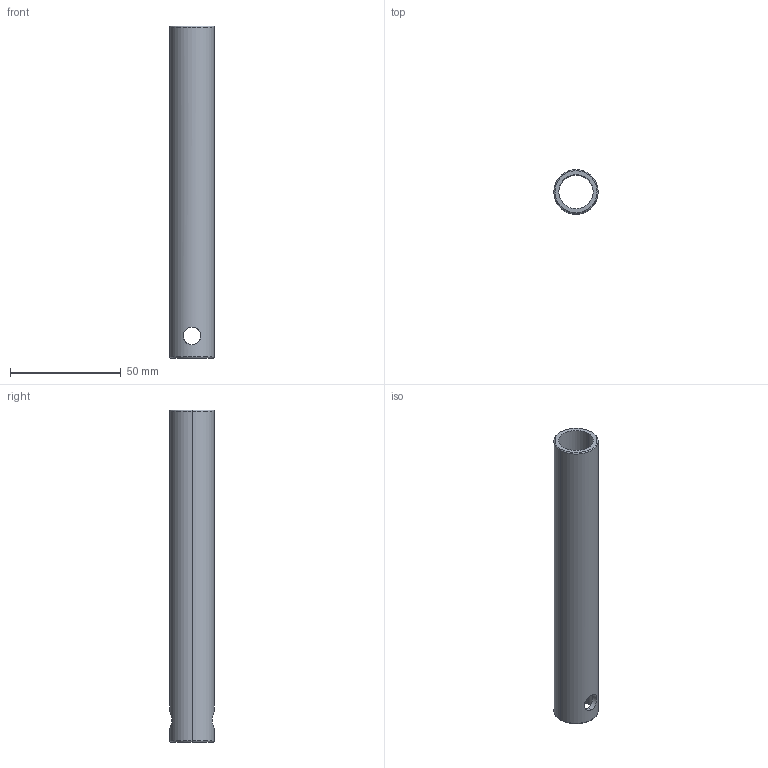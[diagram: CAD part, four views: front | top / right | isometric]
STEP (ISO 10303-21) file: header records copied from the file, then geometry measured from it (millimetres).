
FILE_DESCRIPTION (( 'STEP AP214' ), '1' );
FILE_NAME ('SMBY20-150.STEP', '2023-01-05T09:28:05', ( 'Windows User' ), ( 'P R C' ), 'SwSTEP 2.0', 'SolidWorks 2018', '' );
FILE_SCHEMA (( 'AUTOMOTIVE_DESIGN' ));
Length unit declared in the file: millimetre
Products named in the file (1): SMBY20-150
Bounding box: 20 x 20 x 150 mm (x, y, z)
Volume: 18580.8 mm3; surface area: 16865.5 mm2
Topology: 1 solids, 1 shells, 14 faces, 32 edges, 20 vertices
Faces by surface type: cylinder 8, torus 4, plane 2
Entity records: 720 total; most frequent: CARTESIAN_POINT 335, DIRECTION 70, ORIENTED_EDGE 64, EDGE_CURVE 32, AXIS2_PLACEMENT_3D 31, VERTEX_POINT 20, EDGE_LOOP 20, CIRCLE 16
